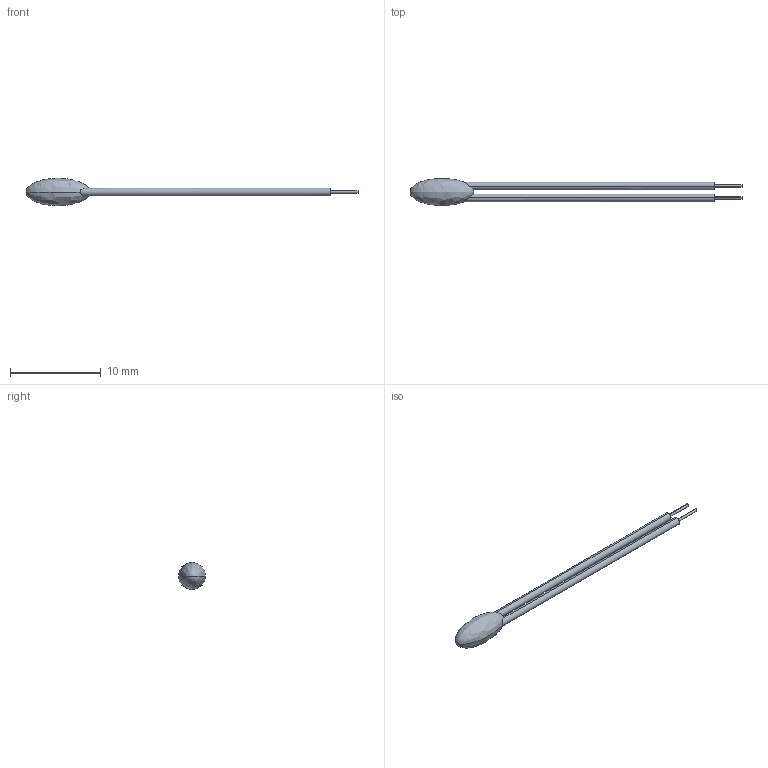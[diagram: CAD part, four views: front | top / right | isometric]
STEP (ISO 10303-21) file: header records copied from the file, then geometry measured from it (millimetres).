
FILE_DESCRIPTION (( 'STEP AP214' ), '1' );
FILE_NAME ('NTCLE428E3 STEP214.STEP', '2019-02-18T12:30:34', ( '' ), ( '' ), 'SwSTEP 2.0', 'SolidWorks 2019', '' );
FILE_SCHEMA (( 'AUTOMOTIVE_DESIGN' ));
Length unit declared in the file: millimetre
Products named in the file (1): NTCLE428E3 STEP214
Bounding box: 36.5 x 2.95 x 3 mm (x, y, z)
Volume: 64 mm3; surface area: 204.6 mm2
Topology: 1 solids, 1 shells, 14 faces, 36 edges, 22 vertices
Faces by surface type: cylinder 8, plane 4, bspline 2
Entity records: 506 total; most frequent: CARTESIAN_POINT 173, ORIENTED_EDGE 64, DIRECTION 58, EDGE_CURVE 32, AXIS2_PLACEMENT_3D 25, VERTEX_POINT 22, EDGE_LOOP 16, ADVANCED_FACE 14
